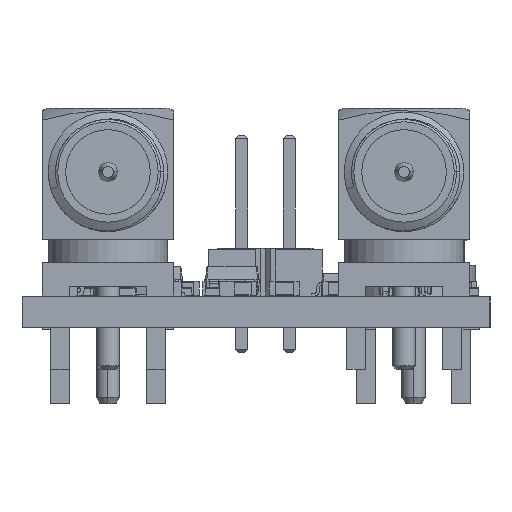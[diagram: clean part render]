
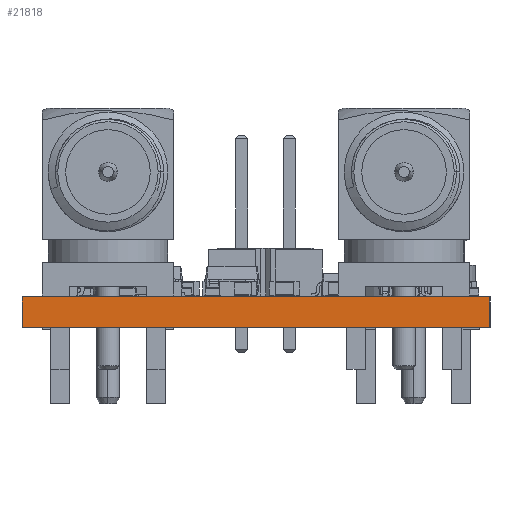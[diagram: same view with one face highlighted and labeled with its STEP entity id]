
A CAD part, left-side view. The second image highlights one B-rep face of the part: STEP entity #21818.
In plain terms, the highlighted planar face has unit normal (-1, 0, 0).
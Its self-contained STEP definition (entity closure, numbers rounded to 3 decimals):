
#21762 = VERTEX_POINT('',#21763);
#21763 = CARTESIAN_POINT('',(100.076,-130.,1.6));
#21769 = EDGE_CURVE('',#21770,#21762,#21772,.T.);
#21770 = VERTEX_POINT('',#21771);
#21771 = CARTESIAN_POINT('',(100.076,-130.,0.));
#21772 = LINE('',#21773,#21774);
#21773 = CARTESIAN_POINT('',(100.076,-130.,0.));
#21774 = VECTOR('',#21775,1.);
#21775 = DIRECTION('',(0.,0.,1.));
#21818 = ADVANCED_FACE('',(#21819),#21844,.T.);
#21819 = FACE_BOUND('',#21820,.T.);
#21820 = EDGE_LOOP('',(#21821,#21822,#21830,#21838));
#21821 = ORIENTED_EDGE('',*,*,#21769,.T.);
#21822 = ORIENTED_EDGE('',*,*,#21823,.T.);
#21823 = EDGE_CURVE('',#21762,#21824,#21826,.T.);
#21824 = VERTEX_POINT('',#21825);
#21825 = CARTESIAN_POINT('',(100.076,-105.156,1.6));
#21826 = LINE('',#21827,#21828);
#21827 = CARTESIAN_POINT('',(100.076,-130.,1.6));
#21828 = VECTOR('',#21829,1.);
#21829 = DIRECTION('',(0.,1.,0.));
#21830 = ORIENTED_EDGE('',*,*,#21831,.F.);
#21831 = EDGE_CURVE('',#21832,#21824,#21834,.T.);
#21832 = VERTEX_POINT('',#21833);
#21833 = CARTESIAN_POINT('',(100.076,-105.156,0.));
#21834 = LINE('',#21835,#21836);
#21835 = CARTESIAN_POINT('',(100.076,-105.156,0.));
#21836 = VECTOR('',#21837,1.);
#21837 = DIRECTION('',(0.,0.,1.));
#21838 = ORIENTED_EDGE('',*,*,#21839,.F.);
#21839 = EDGE_CURVE('',#21770,#21832,#21840,.T.);
#21840 = LINE('',#21841,#21842);
#21841 = CARTESIAN_POINT('',(100.076,-130.,0.));
#21842 = VECTOR('',#21843,1.);
#21843 = DIRECTION('',(0.,1.,0.));
#21844 = PLANE('',#21845);
#21845 = AXIS2_PLACEMENT_3D('',#21846,#21847,#21848);
#21846 = CARTESIAN_POINT('',(100.076,-130.,0.));
#21847 = DIRECTION('',(-1.,0.,0.));
#21848 = DIRECTION('',(0.,1.,0.));
